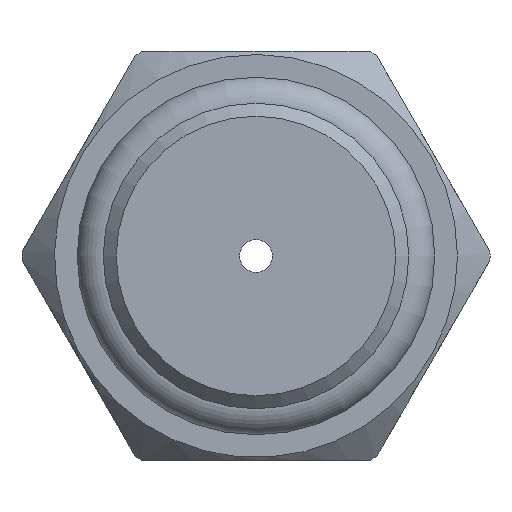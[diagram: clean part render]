
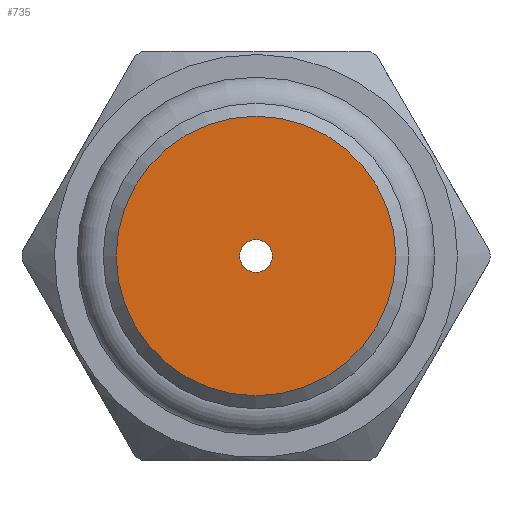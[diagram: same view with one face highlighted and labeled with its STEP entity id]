
A CAD part, left-side view. The second image highlights one B-rep face of the part: STEP entity #735.
In plain terms, the highlighted planar face has unit normal (-1, 0, 0).
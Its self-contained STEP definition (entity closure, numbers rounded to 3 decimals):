
#704=CARTESIAN_POINT('',(0.0,-2.15,0.));
#705=VERTEX_POINT('',#704);
#706=CARTESIAN_POINT('',(0.0,0.0,0.0));
#707=DIRECTION('',(1.0,0.0,0.0));
#708=DIRECTION('',(0.0,1.0,0.0));
#709=AXIS2_PLACEMENT_3D('',#706,#707,#708);
#710=CIRCLE('',#709,2.15);
#711=EDGE_CURVE('',#705,#705,#710,.T.);
#716=CARTESIAN_POINT('',(0.0,-1.175,0.0));
#717=DIRECTION('',(-1.0,0.0,0.0));
#718=DIRECTION('',(0.0,0.0,1.0));
#719=AXIS2_PLACEMENT_3D('',#716,#717,#718);
#720=PLANE('',#719);
#721=ORIENTED_EDGE('',*,*,#711,.F.);
#722=EDGE_LOOP('',(#721));
#723=FACE_OUTER_BOUND('',#722,.T.);
#724=CARTESIAN_POINT('',(0.0,-0.25,0.));
#725=VERTEX_POINT('',#724);
#726=CARTESIAN_POINT('',(0.0,0.0,0.0));
#727=DIRECTION('',(1.0,0.0,0.0));
#728=DIRECTION('',(0.0,1.0,0.0));
#729=AXIS2_PLACEMENT_3D('',#726,#727,#728);
#730=CIRCLE('',#729,0.25);
#731=EDGE_CURVE('',#725,#725,#730,.T.);
#732=ORIENTED_EDGE('',*,*,#731,.T.);
#733=EDGE_LOOP('',(#732));
#734=FACE_BOUND('',#733,.T.);
#735=ADVANCED_FACE('',(#723,#734),#720,.T.);
